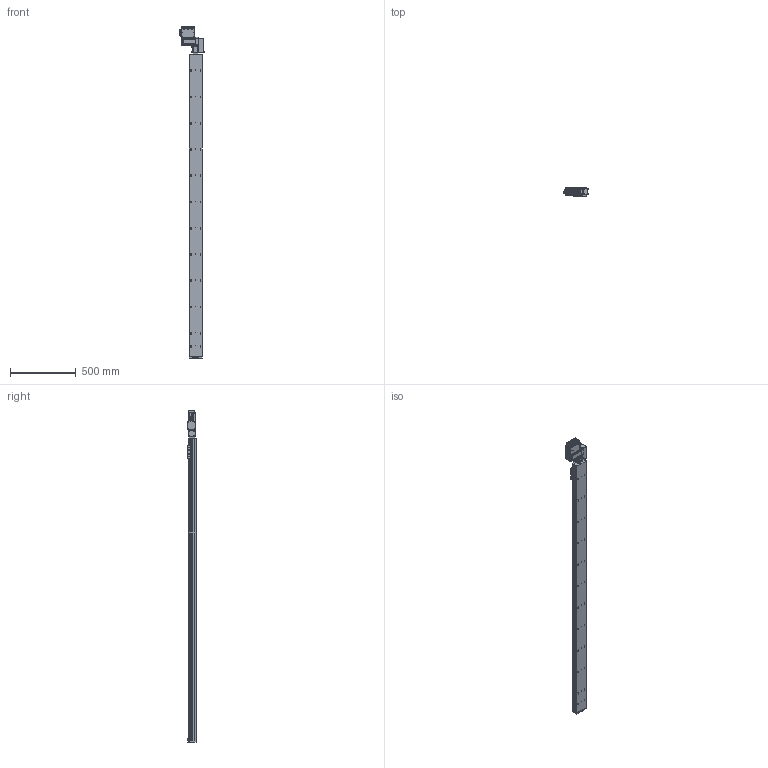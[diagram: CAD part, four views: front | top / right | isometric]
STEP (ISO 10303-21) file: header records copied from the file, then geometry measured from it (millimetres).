
FILE_DESCRIPTION (( 'STEP AP203' ), '1' );
FILE_NAME ('S10 TBN RH S2300.STEP', '2012-06-18T09:32:58', ( 'Conseil Régional Haute-Normandie' ), ( 'Conseil Régional Haute-Normandie' ), 'SwSTEP 2.0', 'SolidWorks 2010', '' );
FILE_SCHEMA (( 'CONFIG_CONTROL_DESIGN' ));
Length unit declared in the file: millimetre
Products named in the file (30): cache t皻e axe_Default; palette tbn; Assem1_7; T_X2_00F4_X0_le contre le moteur_5; BU41 Carte Alimentation P05_3; Connecteur rond D10 3cts_5; T_X2_00F4_X0_le fond_3; T_X2_00F4_X0_le Arri_X2_00E8_X0_re_5; T_X2_00F4_X0_le lat_X2_00E9_X0_rale_5; Vis TF 3 torkx; vis M5 L5_Default; S10 TBN RH S2300; axe 2300; embout; plaque de bout s10_Default; Plaque racord_Default; renvoi LH_Default; cache t皻e_Default; Colonnette_3; BU45 Carte d''axe A11_5; Moteur 60BLDC90A_3; Couvercle_3; Connecteur rond D12 4cts_5; Sub D 9cts 90_X2_00B_X0__3; Radiateur profil_X2_00E9_X0_ 100x25_3; Colonnette ronde_3; Vis TF 3 torkx_1_1; Cvis M5 L30_Default; vis M5 L12_Default; Vis M5 L16-2_Default_1
Assembly tree (69 placements, depth 3):
  S10 TBN RH S2300
    Cvis M5 L30_Default  x2
    cache t皻e axe_Default
    cache t皻e_Default  x2
    vis M5 L12_Default  x4
    Vis M5 L16-2_Default_1  x4
    vis M5 L5_Default  x4
    Assem1_7
      Vis TF 3 torkx_1_1  x21
      T_X2_00F4_X0_le fond_3
      Colonnette_3  x2
      BU45 Carte d''axe A11_5
      BU41 Carte Alimentation P05_3
      Sub D 9cts 90_X2_00B_X0__3
      Radiateur profil_X2_00E9_X0_ 100x25_3
      Connecteur rond D10 3cts_5  x2
      T_X2_00F4_X0_le lat_X2_00E9_X0_rale_5  x2
      T_X2_00F4_X0_le contre le moteur_5
      Couvercle_3
      Connecteur rond D12 4cts_5
      T_X2_00F4_X0_le Arri_X2_00E8_X0_re_5
      Moteur 60BLDC90A_3
      Colonnette ronde_3
    Vis TF 3 torkx  x7
    plaque de bout s10_Default
    renvoi LH_Default
    Plaque racord_Default
    axe 2300
    palette tbn
    embout
Bounding box: 189.8 x 66.75 x 2528.5 mm (x, y, z)
Volume: 12758916.2 mm3; surface area: 1392579.1 mm2
Topology: 68 solids, 68 shells, 2576 faces, 6385 edges, 4123 vertices
Faces by surface type: plane 1226, cylinder 1111, cone 196, bspline 40, torus 3
Entity records: 51031 total; most frequent: CARTESIAN_POINT 9121, DIRECTION 8278, ORIENTED_EDGE 7474, EDGE_CURVE 3737, AXIS2_PLACEMENT_3D 3091, VERTEX_POINT 2439, LINE 2096, VECTOR 2096
